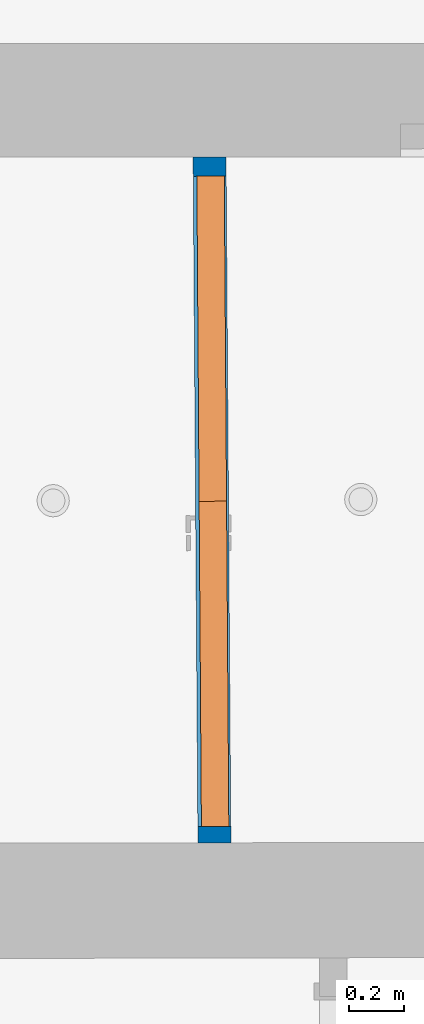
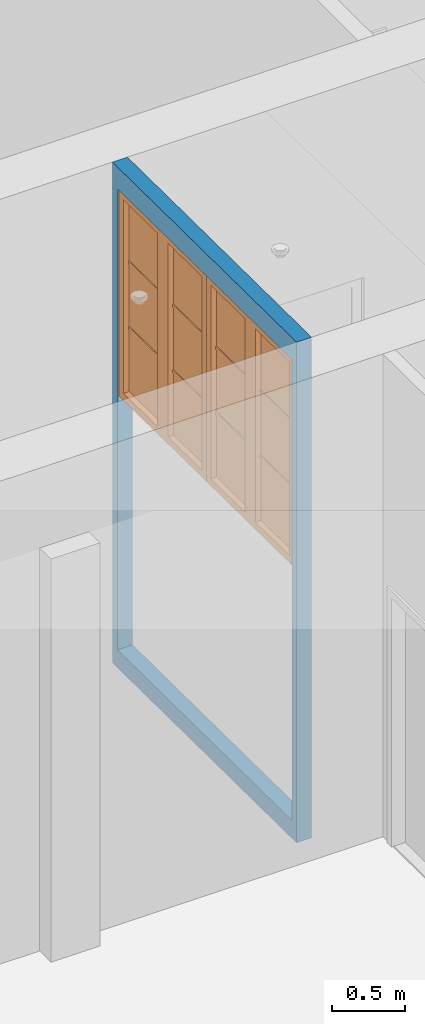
# One storey, part 15 of 90: 2 proxies, 1 wall, 3 openings.
"""IFC2X3 building model written with IfcOpenShell, lengths in metres."""

from ifc_helpers import new_model, entity, si_unit, converted_unit, derived_unit, money_unit, direction, frame, origin_with_axes, origin_2d_with_axis, place, context, subcontext, project, spatial, polyline, rectangle, outline, extrude, faceted_brep, source, transform, mapped, material, layer, layer_set, layer_usage, type_object, element, fill, save


model = new_model("IFC2X3")

# Units and contexts
model_context = context("Model", 3, precision=1e-05, world=origin_with_axes(), true_north=direction((0.0, 1.0)))
body_context = subcontext(model_context, "Body", "Model", "MODEL_VIEW")
ifc_project = project(units=[si_unit("LENGTHUNIT", "METRE"), si_unit("AREAUNIT", "SQUARE_METRE"), si_unit("VOLUMEUNIT", "CUBIC_METRE"), converted_unit("PLANEANGLEUNIT", "DEGREE", entity("IfcPlaneAngleMeasure", 0.0174532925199), si_unit("PLANEANGLEUNIT", "RADIAN"), dimensions=[0, 0, 0, 0, 0, 0, 0]), money_unit("EUR"), converted_unit("TIMEUNIT", "Year", entity("IfcTimeMeasure", 31556926.0), si_unit("TIMEUNIT", "SECOND"), dimensions=[0, 0, 1, 0, 0, 0, 0]), si_unit("MASSUNIT", "GRAM", prefix="KILO"), si_unit("THERMODYNAMICTEMPERATUREUNIT", "DEGREE_CELSIUS"), si_unit("LUMINOUSINTENSITYUNIT", "LUMEN"), si_unit("ENERGYUNIT", "JOULE", prefix="MEGA"), derived_unit("THERMALCONDUCTANCEUNIT", [(si_unit("POWERUNIT", "WATT"), 1), (si_unit("LENGTHUNIT", "METRE"), -1), (si_unit("THERMODYNAMICTEMPERATUREUNIT", "KELVIN"), -1)]), derived_unit("SPECIFICHEATCAPACITYUNIT", [(si_unit("ENERGYUNIT", "JOULE"), 1), (si_unit("MASSUNIT", "GRAM", prefix="KILO"), -1), (si_unit("THERMODYNAMICTEMPERATUREUNIT", "KELVIN"), -1)]), derived_unit("MASSDENSITYUNIT", [(si_unit("MASSUNIT", "GRAM", prefix="KILO"), 1), (si_unit("VOLUMEUNIT", "CUBIC_METRE"), -1)])], contexts=[model_context])

# Site, building, storey
site_placement = place(None, origin_with_axes())
site = spatial("IfcSite", under=ifc_project, at=site_placement, Name="Gelände", CompositionType="ELEMENT")
building_placement = place(site_placement, origin_with_axes())
building = spatial("IfcBuilding", under=site, at=building_placement, Name="Gebäude", CompositionType="ELEMENT")
storey_placement = place(building_placement, frame((0.0, 0.0, 3.7), z_axis=(0.0, 0.0, 1.0), x_axis=(1.0, 0.0, 0.0)))
storey = spatial("IfcBuildingStorey", under=building, at=storey_placement, Name="1.OBERGESCHOSS", CompositionType="ELEMENT", Elevation=3.7)

# Wall, openings, proxies
ifc_material = material(Name="05_ALLGEMEIN - TRAGENDE BAUTEILE")
ifc_layer = layer(ifc_material, 0.12, ventilated="UNKNOWN")
ifc_layer_set = layer_set([ifc_layer], Name="05_ALLGEMEIN - TRAGENDE BAUTEILE 0.12")
ifc_layer_usage = layer_usage(ifc_layer_set, "AXIS2", "NEGATIVE", 0.12)
wall_type = type_object("IfcWallType", Name="05_ALLGEMEIN - TRAGENDE BAUTEILE 120", PredefinedType="ELEMENTEDWALL")
wall_placement = place(storey_placement, frame((-3.55678047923, 16.7765266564, -0.1), z_axis=(0.0, 0.0, 1.0), x_axis=(-0.00703210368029, 0.999975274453, 0.0)))
wall = element("IfcWallStandardCase", 1, at=wall_placement, inside=storey, type_object=wall_type, material=ifc_layer_usage, Name="Wand-036", ObjectType="ELEMENTEDWALL", context=body_context, shape_type="SweptSolid", body=[
    extrude(outline(polyline([(0.0, 0.0), (2.5000439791, 0.0), (2.50085291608, 0.12), (0.000608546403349, 0.12), (0.0, 0.0)])), origin_with_axes(), (0.0, 0.0, 1.0), 4.2),
])
opening_1_placement = place(wall_placement, frame((1.83843119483, 0.0, 2.27362266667), z_axis=(0.0, 0.0, 1.0), x_axis=(1.0, 0.0, 0.0)))
opening_1 = element("IfcOpeningElement", 2, at=opening_1_placement, cuts=wall, Name="Fenster-016", context=body_context, shape_type="SweptSolid", body=[
    extrude(rectangle(XDim=1.18544494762, YDim=1.743605, at=origin_2d_with_axis()), frame((0.0, 0.007, 0.8718025), z_axis=(0.0, 1.0, 0.0), x_axis=(-1.0, 0.0, 0.0)), (0.0, 0.0, 1.0), 0.233),
    extrude(rectangle(XDim=1.18544494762, YDim=1.743605, at=origin_2d_with_axis()), frame((0.0, 0.007, 0.8718025), z_axis=(0.0, -1.0, 0.0), x_axis=(-1.0, 0.0, 0.0)), (0.0, 0.0, 1.0), 0.127),
])
opening_2_placement = place(wall_placement, frame((0.652986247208, 0.0, 2.27362266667), z_axis=(0.0, 0.0, 1.0), x_axis=(1.0, 0.0, 0.0)))
opening_2 = element("IfcOpeningElement", 3, at=opening_2_placement, cuts=wall, Name="Fenster-016", context=body_context, shape_type="SweptSolid", body=[
    extrude(rectangle(XDim=1.18544494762, YDim=1.743605, at=origin_2d_with_axis()), frame((0.0, 0.007, 0.8718025), z_axis=(0.0, 1.0, 0.0), x_axis=(-1.0, 0.0, 0.0)), (0.0, 0.0, 1.0), 0.233),
    extrude(rectangle(XDim=1.18544494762, YDim=1.743605, at=origin_2d_with_axis()), frame((0.0, 0.007, 0.8718025), z_axis=(0.0, -1.0, 0.0), x_axis=(-1.0, 0.0, 0.0)), (0.0, 0.0, 1.0), 0.127),
])
opening_3_placement = place(wall_placement, frame((1.24570872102, 0.0, 0.150650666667), z_axis=(0.0, 0.0, 1.0), x_axis=(1.0, 0.0, 0.0)))
element("IfcOpeningElement", 4, at=opening_3_placement, cuts=wall, Name="Tür-023", context=body_context, shape_type="SweptSolid", body=[
    extrude(rectangle(XDim=2.37088989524, YDim=2.122972, at=origin_2d_with_axis()), frame((0.0, 0.106776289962, 1.061486), z_axis=(0.0, -1.0, 0.0), x_axis=(-1.0, 0.0, 0.0)), (0.0, 0.0, 1.0), 0.226776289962),
    extrude(rectangle(XDim=2.37088989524, YDim=2.122972, at=origin_2d_with_axis()), frame((0.0, 0.106776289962, 1.061486), z_axis=(0.0, 1.0, 0.0), x_axis=(-1.0, 0.0, 0.0)), (0.0, 0.0, 1.0), 0.133223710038),
])
building_element_proxy_type = type_object("IfcBuildingElementProxyType", Name="2-Flügelfenster 1+1 25", PredefinedType="NOTDEFINED")
shared_shape = source(origin_with_axes(), body_context, "Body", "Brep", [
    faceted_brep([(0.59272247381, -0.1, 0.0), (0.53272247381, -0.1, 0.06), (0.53272247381, 0.0, 0.06), (0.59272247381, 0.0, 0.0), (0.59272247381, -0.1, 1.743605), (0.53272247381, -0.1, 1.683605), (0.53272247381, 0.0, 1.683605), (0.59272247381, 0.0, 1.743605)], [[[0, 1, 2, 3]], [[0, 4, 5, 1]], [[1, 5, 6, 2]], [[3, 2, 6, 7]], [[4, 0, 3, 7]], [[5, 4, 7, 6]]]),
    faceted_brep([(-0.59272247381, -0.1, 0.0), (-0.59272247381, -0.1, 1.743605), (-0.59272247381, 0.0, 1.743605), (-0.59272247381, 0.0, 0.0), (-0.53272247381, -0.1, 0.06), (-0.53272247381, -0.1, 1.683605), (-0.53272247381, 0.0, 1.683605), (-0.53272247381, 0.0, 0.06)], [[[0, 1, 2, 3]], [[0, 4, 5, 1]], [[1, 5, 6, 2]], [[3, 2, 6, 7]], [[4, 0, 3, 7]], [[5, 4, 7, 6]]]),
    faceted_brep([(0.59272247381, -0.1, 0.0), (-0.59272247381, -0.1, 0.0), (-0.59272247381, 0.0, 0.0), (0.59272247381, 0.0, 0.0), (0.53272247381, -0.1, 0.06), (0.07, -0.1, 0.06), (-0.07, -0.1, 0.06), (-0.53272247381, -0.1, 0.06), (-0.53272247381, 0.0, 0.06), (-0.07, 0.0, 0.06), (0.07, 0.0, 0.06), (0.53272247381, 0.0, 0.06)], [[[0, 1, 2, 3]], [[0, 4, 5, 6, 7, 1]], [[1, 7, 8, 2]], [[3, 2, 8, 9, 10, 11]], [[4, 0, 3, 11]], [[5, 4, 11, 10]], [[6, 5, 10, 9]], [[7, 6, 9, 8]]]),
    faceted_brep([(0.59272247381, -0.1, 1.743605), (0.53272247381, -0.1, 1.683605), (0.53272247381, 0.0, 1.683605), (0.59272247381, 0.0, 1.743605), (-0.59272247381, -0.1, 1.743605), (-0.53272247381, -0.1, 1.683605), (-0.07, -0.1, 1.683605), (0.07, -0.1, 1.683605), (0.07, 0.0, 1.683605), (-0.07, 0.0, 1.683605), (-0.53272247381, 0.0, 1.683605), (-0.59272247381, 0.0, 1.743605)], [[[0, 1, 2, 3]], [[0, 4, 5, 6, 7, 1]], [[1, 7, 8, 2]], [[3, 2, 8, 9, 10, 11]], [[4, 0, 3, 11]], [[5, 4, 11, 10]], [[6, 5, 10, 9]], [[7, 6, 9, 8]]]),
    faceted_brep([(0.07, -0.1, 0.06), (-0.07, -0.1, 0.06), (-0.07, 0.0, 0.06), (0.07, 0.0, 0.06), (0.07, -0.1, 1.683605), (-0.07, -0.1, 1.683605), (-0.07, 0.0, 1.683605), (0.07, 0.0, 1.683605)], [[[0, 1, 2, 3]], [[0, 4, 5, 1]], [[1, 5, 6, 2]], [[3, 2, 6, 7]], [[4, 0, 3, 7]], [[5, 4, 7, 6]]]),
    faceted_brep([(0.53272247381, -0.0625, 0.584535), (0.07, -0.0625, 0.584535), (0.07, -0.05, 0.584535), (0.53272247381, -0.05, 0.584535), (0.53272247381, -0.0625, 0.609535), (0.07, -0.0625, 0.609535), (0.07, -0.05, 0.609535), (0.53272247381, -0.05, 0.609535)], [[[0, 1, 2, 3]], [[0, 4, 5, 1]], [[1, 5, 6, 2]], [[3, 2, 6, 7]], [[4, 0, 3, 7]], [[5, 4, 7, 6]]]),
    faceted_brep([(0.53272247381, -0.05, 0.584535), (0.07, -0.05, 0.584535), (0.07, -0.0375, 0.584535), (0.53272247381, -0.0375, 0.584535), (0.53272247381, -0.05, 0.609535), (0.07, -0.05, 0.609535), (0.07, -0.0375, 0.609535), (0.53272247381, -0.0375, 0.609535)], [[[0, 1, 2, 3]], [[0, 4, 5, 1]], [[1, 5, 6, 2]], [[3, 2, 6, 7]], [[4, 0, 3, 7]], [[5, 4, 7, 6]]]),
    faceted_brep([(0.53272247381, -0.0625, 1.13407), (0.07, -0.0625, 1.13407), (0.07, -0.05, 1.13407), (0.53272247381, -0.05, 1.13407), (0.53272247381, -0.0625, 1.15907), (0.07, -0.0625, 1.15907), (0.07, -0.05, 1.15907), (0.53272247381, -0.05, 1.15907)], [[[0, 1, 2, 3]], [[0, 4, 5, 1]], [[1, 5, 6, 2]], [[3, 2, 6, 7]], [[4, 0, 3, 7]], [[5, 4, 7, 6]]]),
    faceted_brep([(0.53272247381, -0.05, 1.13407), (0.07, -0.05, 1.13407), (0.07, -0.0375, 1.13407), (0.53272247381, -0.0375, 1.13407), (0.53272247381, -0.05, 1.15907), (0.07, -0.05, 1.15907), (0.07, -0.0375, 1.15907), (0.53272247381, -0.0375, 1.15907)], [[[0, 1, 2, 3]], [[0, 4, 5, 1]], [[1, 5, 6, 2]], [[3, 2, 6, 7]], [[4, 0, 3, 7]], [[5, 4, 7, 6]]]),
    faceted_brep([(0.07, -0.045, 1.13407), (0.07, -0.045, 0.609535), (0.07, -0.055, 0.609535), (0.07, -0.055, 1.13407), (0.53272247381, -0.045, 1.13407), (0.53272247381, -0.045, 0.609535), (0.53272247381, -0.055, 0.609535), (0.53272247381, -0.055, 1.13407)], [[[0, 1, 2, 3]], [[4, 5, 1, 0]], [[2, 1, 5, 6]], [[3, 2, 6, 7]], [[7, 4, 0, 3]], [[7, 6, 5, 4]]]),
    faceted_brep([(0.07, -0.055, 0.06), (0.07, -0.055, 0.584535), (0.07, -0.045, 0.584535), (0.07, -0.045, 0.06), (0.53272247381, -0.055, 0.06), (0.53272247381, -0.055, 0.584535), (0.53272247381, -0.045, 0.584535), (0.53272247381, -0.045, 0.06)], [[[0, 1, 2, 3]], [[4, 5, 1, 0]], [[2, 1, 5, 6]], [[3, 2, 6, 7]], [[0, 3, 7, 4]], [[7, 6, 5, 4]]]),
    faceted_brep([(0.53272247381, -0.055, 1.15907), (0.53272247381, -0.055, 1.683605), (0.07, -0.055, 1.683605), (0.07, -0.055, 1.15907), (0.53272247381, -0.045, 1.15907), (0.53272247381, -0.045, 1.683605), (0.07, -0.045, 1.683605), (0.07, -0.045, 1.15907)], [[[0, 1, 2, 3]], [[4, 5, 1, 0]], [[5, 6, 2, 1]], [[3, 2, 6, 7]], [[7, 4, 0, 3]], [[7, 6, 5, 4]]]),
    faceted_brep([(-0.07, -0.0625, 0.584535), (-0.53272247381, -0.0625, 0.584535), (-0.53272247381, -0.05, 0.584535), (-0.07, -0.05, 0.584535), (-0.07, -0.0625, 0.609535), (-0.53272247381, -0.0625, 0.609535), (-0.53272247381, -0.05, 0.609535), (-0.07, -0.05, 0.609535)], [[[0, 1, 2, 3]], [[0, 4, 5, 1]], [[1, 5, 6, 2]], [[3, 2, 6, 7]], [[4, 0, 3, 7]], [[5, 4, 7, 6]]]),
    faceted_brep([(-0.07, -0.05, 0.584535), (-0.53272247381, -0.05, 0.584535), (-0.53272247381, -0.0375, 0.584535), (-0.07, -0.0375, 0.584535), (-0.07, -0.05, 0.609535), (-0.53272247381, -0.05, 0.609535), (-0.53272247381, -0.0375, 0.609535), (-0.07, -0.0375, 0.609535)], [[[0, 1, 2, 3]], [[0, 4, 5, 1]], [[1, 5, 6, 2]], [[3, 2, 6, 7]], [[4, 0, 3, 7]], [[5, 4, 7, 6]]]),
    faceted_brep([(-0.07, -0.0625, 1.13407), (-0.53272247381, -0.0625, 1.13407), (-0.53272247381, -0.05, 1.13407), (-0.07, -0.05, 1.13407), (-0.07, -0.0625, 1.15907), (-0.53272247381, -0.0625, 1.15907), (-0.53272247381, -0.05, 1.15907), (-0.07, -0.05, 1.15907)], [[[0, 1, 2, 3]], [[0, 4, 5, 1]], [[1, 5, 6, 2]], [[3, 2, 6, 7]], [[4, 0, 3, 7]], [[5, 4, 7, 6]]]),
    faceted_brep([(-0.07, -0.05, 1.13407), (-0.53272247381, -0.05, 1.13407), (-0.53272247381, -0.0375, 1.13407), (-0.07, -0.0375, 1.13407), (-0.07, -0.05, 1.15907), (-0.53272247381, -0.05, 1.15907), (-0.53272247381, -0.0375, 1.15907), (-0.07, -0.0375, 1.15907)], [[[0, 1, 2, 3]], [[0, 4, 5, 1]], [[1, 5, 6, 2]], [[3, 2, 6, 7]], [[4, 0, 3, 7]], [[5, 4, 7, 6]]]),
    faceted_brep([(-0.53272247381, -0.045, 1.13407), (-0.53272247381, -0.045, 0.609535), (-0.53272247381, -0.055, 0.609535), (-0.53272247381, -0.055, 1.13407), (-0.07, -0.045, 1.13407), (-0.07, -0.045, 0.609535), (-0.07, -0.055, 0.609535), (-0.07, -0.055, 1.13407)], [[[0, 1, 2, 3]], [[4, 5, 1, 0]], [[2, 1, 5, 6]], [[3, 2, 6, 7]], [[7, 4, 0, 3]], [[7, 6, 5, 4]]]),
    faceted_brep([(-0.53272247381, -0.055, 0.06), (-0.53272247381, -0.055, 0.584535), (-0.53272247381, -0.045, 0.584535), (-0.53272247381, -0.045, 0.06), (-0.07, -0.055, 0.06), (-0.07, -0.055, 0.584535), (-0.07, -0.045, 0.584535), (-0.07, -0.045, 0.06)], [[[0, 1, 2, 3]], [[4, 5, 1, 0]], [[2, 1, 5, 6]], [[3, 2, 6, 7]], [[0, 3, 7, 4]], [[7, 6, 5, 4]]]),
    faceted_brep([(-0.07, -0.055, 1.15907), (-0.07, -0.055, 1.683605), (-0.53272247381, -0.055, 1.683605), (-0.53272247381, -0.055, 1.15907), (-0.07, -0.045, 1.15907), (-0.07, -0.045, 1.683605), (-0.53272247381, -0.045, 1.683605), (-0.53272247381, -0.045, 1.15907)], [[[0, 1, 2, 3]], [[4, 5, 1, 0]], [[5, 6, 2, 1]], [[3, 2, 6, 7]], [[7, 4, 0, 3]], [[7, 6, 5, 4]]]),
])
proxy_1_placement = place(opening_1_placement, frame((-0.59272247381, 0.0, 0.0), z_axis=(0.0, 0.0, 1.0), x_axis=(1.0, 0.0, 0.0)))
proxy_1 = element("IfcBuildingElementProxy", 5, at=proxy_1_placement, inside=storey, type_object=building_element_proxy_type, Name="Fenster-016", context=body_context, shape_type="MappedRepresentation", body=[
    mapped(shared_shape, transform((0.59272247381, 0.107, 0.0))),
])
fill(opening_1, proxy_1)
proxy_2_placement = place(opening_2_placement, frame((-0.59272247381, 0.0, 0.0), z_axis=(0.0, 0.0, 1.0), x_axis=(1.0, 0.0, 0.0)))
proxy_2 = element("IfcBuildingElementProxy", 6, at=proxy_2_placement, inside=storey, type_object=building_element_proxy_type, Name="Fenster-016", context=body_context, shape_type="MappedRepresentation", body=[
    mapped(shared_shape, transform((0.59272247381, 0.107, 0.0))),
])
fill(opening_2, proxy_2)

save(model, "model.ifc")
